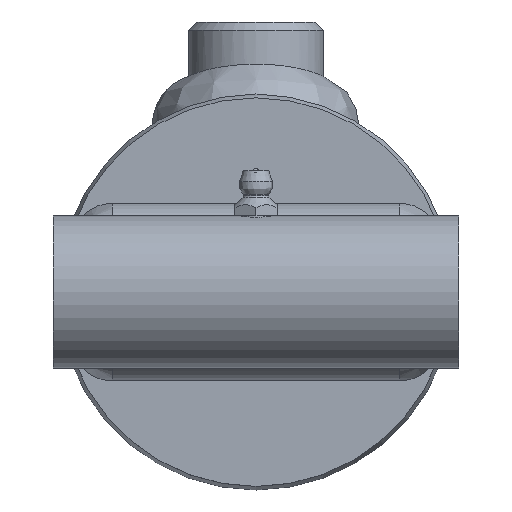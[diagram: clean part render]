
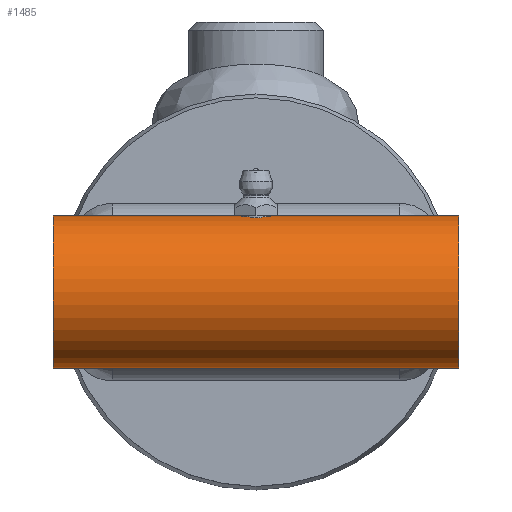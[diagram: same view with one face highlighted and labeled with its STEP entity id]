
A CAD part, top view. The second image highlights one B-rep face of the part: STEP entity #1485.
In plain terms, the highlighted cylindrical face has radius 14.287 mm (diameter 28.575 mm), a full revolution.
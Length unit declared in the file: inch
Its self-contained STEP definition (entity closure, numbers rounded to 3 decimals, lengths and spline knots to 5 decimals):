
#1320=CARTESIAN_POINT('',(-0.1065,0.5625,0.));
#1321=VERTEX_POINT('',#1320);
#1322=CARTESIAN_POINT('',(0.1065,0.5625,0.));
#1323=VERTEX_POINT('',#1322);
#1324=CARTESIAN_POINT('',(-0.1065,0.5625,0.));
#1325=CARTESIAN_POINT('',(-0.1065,0.5625,-0.01341));
#1326=CARTESIAN_POINT('',(-0.10381,0.56197,-0.02769));
#1327=CARTESIAN_POINT('',(-0.09294,0.56006,-0.05392));
#1328=CARTESIAN_POINT('',(-0.08474,0.55871,-0.06587));
#1329=CARTESIAN_POINT('',(-0.06587,0.55616,-0.08474));
#1330=CARTESIAN_POINT('',(-0.05392,0.5548,-0.09294));
#1331=CARTESIAN_POINT('',(-0.02769,0.55286,-0.10381));
#1332=CARTESIAN_POINT('',(-0.01341,0.55233,-0.1065));
#1333=CARTESIAN_POINT('',(0.01341,0.55233,-0.1065));
#1334=CARTESIAN_POINT('',(0.02769,0.55286,-0.10381));
#1335=CARTESIAN_POINT('',(0.05392,0.5548,-0.09294));
#1336=CARTESIAN_POINT('',(0.06587,0.55616,-0.08474));
#1337=CARTESIAN_POINT('',(0.08474,0.55871,-0.06587));
#1338=CARTESIAN_POINT('',(0.09294,0.56006,-0.05392));
#1339=CARTESIAN_POINT('',(0.10381,0.56197,-0.02769));
#1340=CARTESIAN_POINT('',(0.1065,0.5625,-0.01341));
#1341=CARTESIAN_POINT('',(0.1065,0.5625,0.));
#1342=B_SPLINE_CURVE_WITH_KNOTS('',3,(#1324,#1325,#1326,#1327,#1328,#1329,#1330,#1331,#1332,#1333,#1334,#1335,#1336,#1337,#1338,#1339,#1340,#1341),.UNSPECIFIED.,.F.,.U.,(4,2,2,2,2,2,2,2,4),(0.40865,0.51081,0.61297,0.71514,0.81731,0.91947,1.02164,1.1238,1.22596),.UNSPECIFIED.);
#1343=EDGE_CURVE('',#1321,#1323,#1342,.T.);
#1345=CARTESIAN_POINT('',(0.1065,0.5625,0.));
#1346=CARTESIAN_POINT('',(0.1065,0.5625,0.01341));
#1347=CARTESIAN_POINT('',(0.10381,0.56197,0.02769));
#1348=CARTESIAN_POINT('',(0.09294,0.56006,0.05392));
#1349=CARTESIAN_POINT('',(0.08474,0.55871,0.06587));
#1350=CARTESIAN_POINT('',(0.06587,0.55616,0.08474));
#1351=CARTESIAN_POINT('',(0.05392,0.5548,0.09294));
#1352=CARTESIAN_POINT('',(0.02769,0.55286,0.10381));
#1353=CARTESIAN_POINT('',(0.01341,0.55233,0.1065));
#1354=CARTESIAN_POINT('',(0.0,0.55233,0.1065));
#1355=CARTESIAN_POINT('',(-0.01341,0.55233,0.1065));
#1356=CARTESIAN_POINT('',(-0.02769,0.55286,0.10381));
#1357=CARTESIAN_POINT('',(-0.05392,0.5548,0.09294));
#1358=CARTESIAN_POINT('',(-0.06587,0.55616,0.08474));
#1359=CARTESIAN_POINT('',(-0.08474,0.55871,0.06587));
#1360=CARTESIAN_POINT('',(-0.09294,0.56006,0.05392));
#1361=CARTESIAN_POINT('',(-0.10381,0.56197,0.02769));
#1362=CARTESIAN_POINT('',(-0.1065,0.5625,0.01341));
#1363=CARTESIAN_POINT('',(-0.1065,0.5625,0.));
#1364=B_SPLINE_CURVE_WITH_KNOTS('',3,(#1345,#1346,#1347,#1348,#1349,#1350,#1351,#1352,#1353,#1354,#1355,#1356,#1357,#1358,#1359,#1360,#1361,#1362,#1363),.UNSPECIFIED.,.F.,.U.,(4,2,2,2,3,2,2,2,4),(1.22596,1.32812,1.43028,1.53244,1.63461,1.73678,1.83894,1.9411,2.04326),.UNSPECIFIED.);
#1365=EDGE_CURVE('',#1323,#1321,#1364,.T.);
#1447=CARTESIAN_POINT('',(-1.5,0.5625,0.));
#1448=VERTEX_POINT('',#1447);
#1449=CARTESIAN_POINT('',(-1.5,0.0,0.0));
#1450=DIRECTION('',(1.0,0.0,0.0));
#1451=DIRECTION('',(0.0,-1.0,0.0));
#1452=AXIS2_PLACEMENT_3D('',#1449,#1450,#1451);
#1453=CIRCLE('',#1452,0.5625);
#1454=EDGE_CURVE('',#1448,#1448,#1453,.T.);
#1462=CARTESIAN_POINT('',(0.0,0.0,0.0));
#1463=DIRECTION('',(1.0,0.0,0.0));
#1464=DIRECTION('',(0.0,-1.0,0.0));
#1465=AXIS2_PLACEMENT_3D('',#1462,#1463,#1464);
#1466=CYLINDRICAL_SURFACE('',#1465,0.5625);
#1467=ORIENTED_EDGE('',*,*,#1454,.T.);
#1468=EDGE_LOOP('',(#1467));
#1469=FACE_OUTER_BOUND('',#1468,.T.);
#1470=ORIENTED_EDGE('',*,*,#1343,.T.);
#1471=ORIENTED_EDGE('',*,*,#1365,.T.);
#1472=EDGE_LOOP('',(#1470,#1471));
#1473=FACE_BOUND('',#1472,.T.);
#1474=CARTESIAN_POINT('',(1.5,0.5625,0.));
#1475=VERTEX_POINT('',#1474);
#1476=CARTESIAN_POINT('',(1.5,0.0,0.0));
#1477=DIRECTION('',(-1.0,0.0,0.0));
#1478=DIRECTION('',(0.0,-1.0,0.0));
#1479=AXIS2_PLACEMENT_3D('',#1476,#1477,#1478);
#1480=CIRCLE('',#1479,0.5625);
#1481=EDGE_CURVE('',#1475,#1475,#1480,.T.);
#1482=ORIENTED_EDGE('',*,*,#1481,.T.);
#1483=EDGE_LOOP('',(#1482));
#1484=FACE_BOUND('',#1483,.T.);
#1485=ADVANCED_FACE('',(#1469,#1473,#1484),#1466,.T.);
